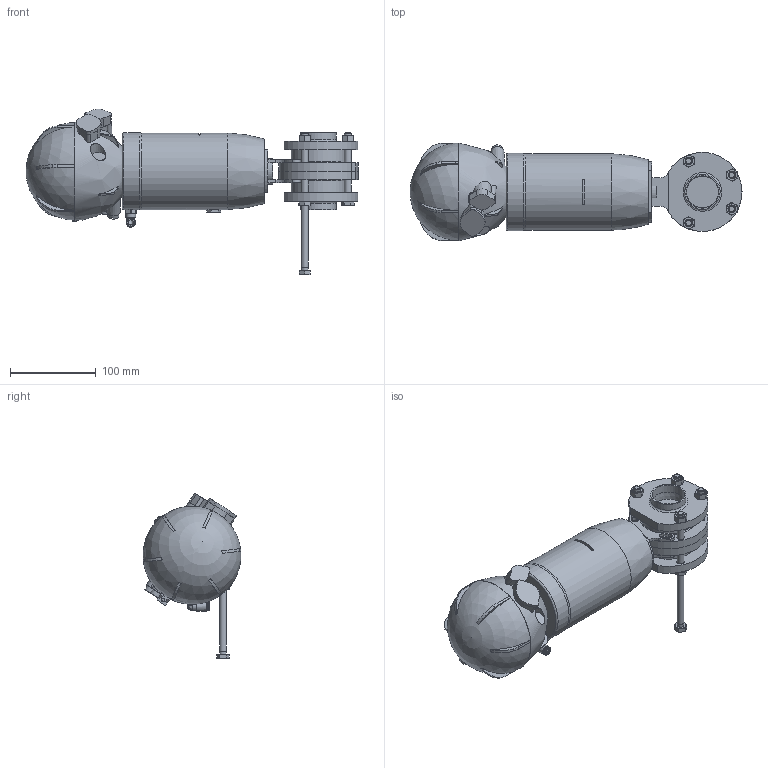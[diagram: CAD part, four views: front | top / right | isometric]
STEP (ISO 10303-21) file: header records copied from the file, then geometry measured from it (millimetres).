
FILE_DESCRIPTION(/* description */ ('ZVF V.FARF.DN40(41X1.5) WAF4 MACH83 SENC EPDM 316'),/* implementation_level */ '2;1');
FILE_NAME(/* name */ 'C:\_DED_PWS\MENI-A\DB\B\EAA\BEAAC6040BEBA-00^SAGOMA.step',/* time_stamp */ '2025-06-06T15:11:40+02:00',/* author */ (''),/* organization */ (''),/* preprocessor_version */ 'ST-DEVELOPER v20',/* originating_system */ 'Autodesk Inventor 2022',/* authorisation */ '');
FILE_SCHEMA (('CONFIG_CONTROL_DESIGN'));
Length unit declared in the file: millimetre
Products named in the file (10): BEAAC6040BEBA; 3DAAZVFAA052; Supporto-farf-DN25-65-; 3DAAJGIOAA007; TWD030040BBA; FLANGIA-DN41x1.5-WAFER-4; RBIAA.M08; RBAAA08X80-00_MIR; RBIAA.M08-00_MIR; RBAAA08X80
Assembly tree (16 placements, depth 2):
  BEAAC6040BEBA
    3DAAZVFAA052
    Supporto-farf-DN25-65-
    3DAAJGIOAA007
    TWD030040BBA  x2
    FLANGIA-DN41x1.5-WAFER-4  x2
    RBAAA08X80  x3
    RBIAA.M08  x2
    RBAAA08X80-00_MIR  x2
    RBIAA.M08-00_MIR  x2
Bounding box: 386.46 x 113.95 x 192.88 mm (x, y, z)
Volume: 2221892.4 mm3; surface area: 230127.3 mm2
Topology: 16 solids, 16 shells, 1237 faces, 3212 edges, 2076 vertices
Faces by surface type: plane 845, cylinder 167, cone 151, bspline 56, torus 17, sphere 1
Full cylindrical faces by diameter (mm): 2 x1, 3 x1, 4 x1, 4.917 x11, 6 x2, 6.2 x12, 7 x5, 7.8 x1, 8 x14, 8.3 x1, 8.5 x12, 8.566 x1, 10 x2, 10.376 x1, 11 x1, 11.5 x1, 13 x9, 18 x1, 18.5 x2, 24.5 x1, 25 x1, 26 x1, 30 x1, 30.3 x1, 38 x2, 41 x2, 63 x2, 82.8 x1, 83 x1, 89 x1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
Entity records: 37438 total; most frequent: CARTESIAN_POINT 8882, DIRECTION 5999, ORIENTED_EDGE 5706, EDGE_CURVE 2853, AXIS2_PLACEMENT_3D 2446, VERTEX_POINT 1870, EDGE_LOOP 1205, LINE 1107
